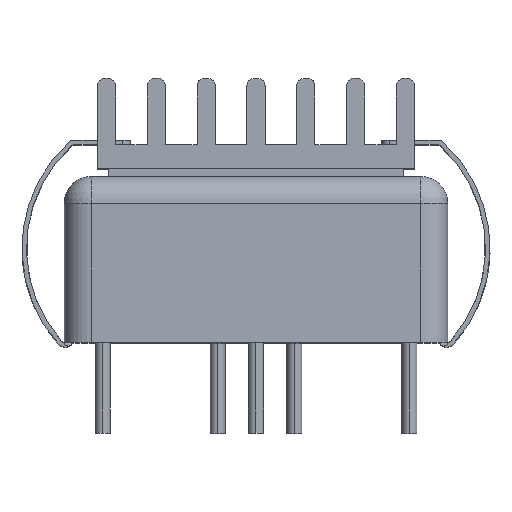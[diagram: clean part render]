
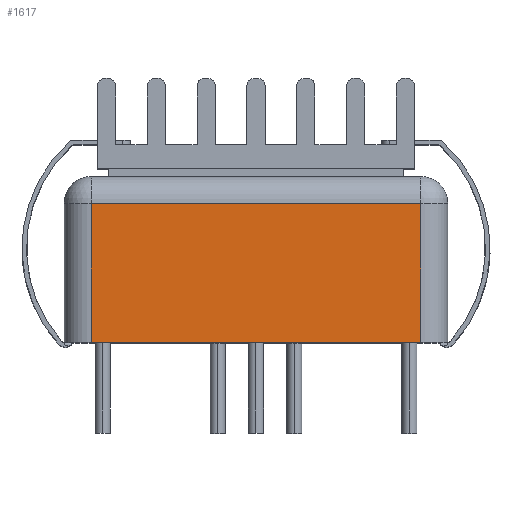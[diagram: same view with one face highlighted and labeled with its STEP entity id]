
A CAD part, top view. The second image highlights one B-rep face of the part: STEP entity #1617.
In plain terms, the highlighted planar face has unit normal (0, 0, 1).
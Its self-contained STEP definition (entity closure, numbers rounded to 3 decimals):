
#29 = VERTEX_POINT ( 'NONE', #849 ) ;
#503 = ORIENTED_EDGE ( 'NONE', *, *, #15417, .T. ) ;
#849 = CARTESIAN_POINT ( 'NONE',  ( -23.6, -11., 0. ) ) ;
#1557 = PLANE ( 'NONE',  #16417 ) ;
#1617 = ADVANCED_FACE ( 'NONE', ( #17759 ), #1557, .F. ) ;
#2127 = EDGE_CURVE ( 'NONE', #13084, #29, #12827, .T. ) ;
#2287 = CARTESIAN_POINT ( 'NONE',  ( -1.8, -1.8, 0. ) ) ;
#4058 = DIRECTION ( 'NONE',  ( -1., 0., 0. ) ) ;
#5467 = CARTESIAN_POINT ( 'NONE',  ( -23.6, -1.8, 0. ) ) ;
#6541 = EDGE_CURVE ( 'NONE', #20216, #29, #8662, .T. ) ;
#6886 = VECTOR ( 'NONE', #20461, 1000. ) ;
#7928 = DIRECTION ( 'NONE',  ( 0., -1., 0. ) ) ;
#8662 = LINE ( 'NONE', #18419, #20576 ) ;
#8973 = CARTESIAN_POINT ( 'NONE',  ( -25.4, -1.8, 0. ) ) ;
#9306 = VECTOR ( 'NONE', #4058, 1000. ) ;
#9559 = DIRECTION ( 'NONE',  ( 0., 0., -1. ) ) ;
#10509 = ORIENTED_EDGE ( 'NONE', *, *, #6541, .F. ) ;
#10801 = CARTESIAN_POINT ( 'NONE',  ( -23.6, -11., 0. ) ) ;
#12462 = EDGE_LOOP ( 'NONE', ( #12800, #13151, #10509, #503 ) ) ;
#12474 = LINE ( 'NONE', #17261, #6886 ) ;
#12800 = ORIENTED_EDGE ( 'NONE', *, *, #16089, .T. ) ;
#12827 = LINE ( 'NONE', #10801, #17025 ) ;
#13084 = VERTEX_POINT ( 'NONE', #5467 ) ;
#13151 = ORIENTED_EDGE ( 'NONE', *, *, #2127, .T. ) ;
#15136 = DIRECTION ( 'NONE',  ( -1., 0., 0. ) ) ;
#15417 = EDGE_CURVE ( 'NONE', #20216, #16753, #12474, .T. ) ;
#15850 = CARTESIAN_POINT ( 'NONE',  ( 0., -11., 0. ) ) ;
#15945 = DIRECTION ( 'NONE',  ( -1., 0., 0. ) ) ;
#16089 = EDGE_CURVE ( 'NONE', #16753, #13084, #17161, .T. ) ;
#16417 = AXIS2_PLACEMENT_3D ( 'NONE', #15850, #9559, #15945 ) ;
#16753 = VERTEX_POINT ( 'NONE', #2287 ) ;
#17025 = VECTOR ( 'NONE', #7928, 1000. ) ;
#17161 = LINE ( 'NONE', #8973, #9306 ) ;
#17261 = CARTESIAN_POINT ( 'NONE',  ( -1.8, -11., 0. ) ) ;
#17759 = FACE_OUTER_BOUND ( 'NONE', #12462, .T. ) ;
#18419 = CARTESIAN_POINT ( 'NONE',  ( 0., -11., 0. ) ) ;
#20216 = VERTEX_POINT ( 'NONE', #20411 ) ;
#20411 = CARTESIAN_POINT ( 'NONE',  ( -1.8, -11., 0. ) ) ;
#20461 = DIRECTION ( 'NONE',  ( 0., 1., 0. ) ) ;
#20576 = VECTOR ( 'NONE', #15136, 1000. ) ;
